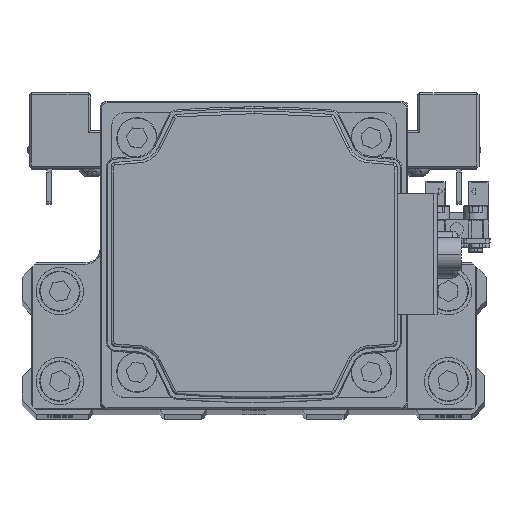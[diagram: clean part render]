
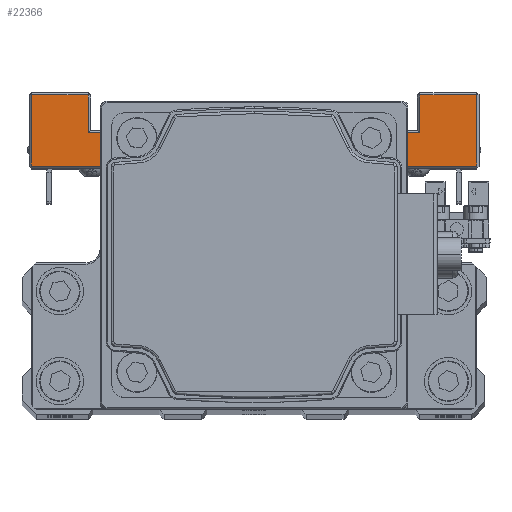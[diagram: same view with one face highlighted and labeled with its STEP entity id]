
A CAD part, top view. The second image highlights one B-rep face of the part: STEP entity #22366.
In plain terms, the highlighted planar face has unit normal (0, 0, 1) as drawn and (1, 0, 0) by its records, which use the part's own axes.
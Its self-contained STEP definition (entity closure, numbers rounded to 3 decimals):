
#849 = VERTEX_POINT ( 'NONE', #14409 ) ;
#1273 = EDGE_CURVE ( 'NONE', #39231, #20649, #33098, .T. ) ;
#2835 = DIRECTION ( 'NONE',  ( -1., 0., 0. ) ) ;
#3007 = DIRECTION ( 'NONE',  ( 0., -1., 0. ) ) ;
#3331 = CARTESIAN_POINT ( 'NONE',  ( 47., 7.5, 35. ) ) ;
#4385 = CARTESIAN_POINT ( 'NONE',  ( 47., 7.5, 20. ) ) ;
#4427 = VERTEX_POINT ( 'NONE', #18745 ) ;
#4443 = VECTOR ( 'NONE', #30879, 1000. ) ;
#4496 = LINE ( 'NONE', #17186, #24999 ) ;
#4572 = CARTESIAN_POINT ( 'NONE',  ( 47., 7.5, -35. ) ) ;
#4639 = LINE ( 'NONE', #17332, #11763 ) ;
#5476 = LINE ( 'NONE', #18178, #4443 ) ;
#5573 = LINE ( 'NONE', #18277, #33546 ) ;
#5973 = FACE_OUTER_BOUND ( 'NONE', #37573, .T. ) ;
#6413 = CARTESIAN_POINT ( 'NONE',  ( 47., -7.5, 20. ) ) ;
#6462 = CARTESIAN_POINT ( 'NONE',  ( 47., 15., -35. ) ) ;
#7456 = VECTOR ( 'NONE', #22152, 1000. ) ;
#8195 = ORIENTED_EDGE ( 'NONE', *, *, #19695, .F. ) ;
#8499 = LINE ( 'NONE', #21171, #36904 ) ;
#8721 = DIRECTION ( 'NONE',  ( 0., 1., 0. ) ) ;
#9049 = CARTESIAN_POINT ( 'NONE',  ( 47., 8., 20. ) ) ;
#9093 = VERTEX_POINT ( 'NONE', #22572 ) ;
#9165 = CARTESIAN_POINT ( 'NONE',  ( 47., 23., 47. ) ) ;
#9360 = VERTEX_POINT ( 'NONE', #15082 ) ;
#9466 = CARTESIAN_POINT ( 'NONE',  ( 47., 8., -47. ) ) ;
#10798 = VECTOR ( 'NONE', #3007, 1000. ) ;
#11482 = EDGE_CURVE ( 'NONE', #20649, #20090, #5476, .T. ) ;
#11763 = VECTOR ( 'NONE', #30009, 1000. ) ;
#13523 = EDGE_CURVE ( 'NONE', #849, #22419, #32901, .T. ) ;
#14069 = EDGE_CURVE ( 'NONE', #20090, #4427, #31850, .T. ) ;
#14178 = VERTEX_POINT ( 'NONE', #35263 ) ;
#14194 = ORIENTED_EDGE ( 'NONE', *, *, #13523, .T. ) ;
#14274 = VECTOR ( 'NONE', #17079, 1000. ) ;
#14409 = CARTESIAN_POINT ( 'NONE',  ( 47., 8., 20. ) ) ;
#14459 = ORIENTED_EDGE ( 'NONE', *, *, #14069, .T. ) ;
#15082 = CARTESIAN_POINT ( 'NONE',  ( 47., 23., -47. ) ) ;
#15547 = DIRECTION ( 'NONE',  ( 0., 0., 1. ) ) ;
#15815 = CARTESIAN_POINT ( 'NONE',  ( 47., 8., -47. ) ) ;
#16028 = DIRECTION ( 'NONE',  ( 0., 1., 0. ) ) ;
#17079 = DIRECTION ( 'NONE',  ( 0., -1., 0. ) ) ;
#17186 = CARTESIAN_POINT ( 'NONE',  ( 47., 23., -20. ) ) ;
#17266 = DIRECTION ( 'NONE',  ( 0., -1., 0. ) ) ;
#17332 = CARTESIAN_POINT ( 'NONE',  ( 47., 23., -20. ) ) ;
#18178 = CARTESIAN_POINT ( 'NONE',  ( 47., 15., -20. ) ) ;
#18277 = CARTESIAN_POINT ( 'NONE',  ( 47., 7.5, 47. ) ) ;
#18656 = PLANE ( 'NONE',  #27477 ) ;
#18745 = CARTESIAN_POINT ( 'NONE',  ( 47., 23., 35. ) ) ;
#18802 = LINE ( 'NONE', #31511, #10798 ) ;
#19602 = EDGE_CURVE ( 'NONE', #9093, #849, #37569, .T. ) ;
#19695 = EDGE_CURVE ( 'NONE', #29165, #14178, #18802, .T. ) ;
#20084 = ORIENTED_EDGE ( 'NONE', *, *, #11482, .T. ) ;
#20090 = VERTEX_POINT ( 'NONE', #27914 ) ;
#20649 = VERTEX_POINT ( 'NONE', #6462 ) ;
#21171 = CARTESIAN_POINT ( 'NONE',  ( 47., -7.5, -20. ) ) ;
#21736 = DIRECTION ( 'NONE',  ( 0., 0., -1. ) ) ;
#21879 = ORIENTED_EDGE ( 'NONE', *, *, #26440, .T. ) ;
#22152 = DIRECTION ( 'NONE',  ( 0., 0., -1. ) ) ;
#22366 = ADVANCED_FACE ( 'NONE', ( #5973 ), #18656, .F. ) ;
#22419 = VERTEX_POINT ( 'NONE', #6413 ) ;
#22572 = CARTESIAN_POINT ( 'NONE',  ( 47., 8., 47. ) ) ;
#23344 = CARTESIAN_POINT ( 'NONE',  ( 47., 23., -35. ) ) ;
#23556 = EDGE_CURVE ( 'NONE', #22419, #14178, #8499, .T. ) ;
#23679 = ORIENTED_EDGE ( 'NONE', *, *, #1273, .T. ) ;
#24435 = VECTOR ( 'NONE', #16028, 1000. ) ;
#24517 = LINE ( 'NONE', #37244, #29619 ) ;
#24999 = VECTOR ( 'NONE', #29864, 1000. ) ;
#25202 = ORIENTED_EDGE ( 'NONE', *, *, #23556, .T. ) ;
#26440 = EDGE_CURVE ( 'NONE', #29165, #38189, #37996, .T. ) ;
#27388 = VECTOR ( 'NONE', #21736, 1000. ) ;
#27477 = AXIS2_PLACEMENT_3D ( 'NONE', #31357, #2835, #15547 ) ;
#27680 = ORIENTED_EDGE ( 'NONE', *, *, #34160, .T. ) ;
#27914 = CARTESIAN_POINT ( 'NONE',  ( 47., 15., 35. ) ) ;
#28063 = ORIENTED_EDGE ( 'NONE', *, *, #38741, .T. ) ;
#29165 = VERTEX_POINT ( 'NONE', #37635 ) ;
#29619 = VECTOR ( 'NONE', #8721, 1000. ) ;
#29629 = VECTOR ( 'NONE', #17266, 1000. ) ;
#29864 = DIRECTION ( 'NONE',  ( 0., 0., 1. ) ) ;
#30009 = DIRECTION ( 'NONE',  ( 0., 0., 1. ) ) ;
#30101 = VERTEX_POINT ( 'NONE', #9165 ) ;
#30879 = DIRECTION ( 'NONE',  ( 0., 0., 1. ) ) ;
#30975 = DIRECTION ( 'NONE',  ( 0., -1., 0. ) ) ;
#31357 = CARTESIAN_POINT ( 'NONE',  ( 47., 7.5, -20. ) ) ;
#31511 = CARTESIAN_POINT ( 'NONE',  ( 47., 7.5, -20. ) ) ;
#31850 = LINE ( 'NONE', #3331, #24435 ) ;
#32562 = ORIENTED_EDGE ( 'NONE', *, *, #38056, .T. ) ;
#32901 = LINE ( 'NONE', #4385, #14274 ) ;
#33098 = LINE ( 'NONE', #4572, #29629 ) ;
#33546 = VECTOR ( 'NONE', #30975, 1000. ) ;
#33880 = DIRECTION ( 'NONE',  ( 0., 0., -1. ) ) ;
#34160 = EDGE_CURVE ( 'NONE', #30101, #9093, #5573, .T. ) ;
#35263 = CARTESIAN_POINT ( 'NONE',  ( 47., -7.5, -20. ) ) ;
#36904 = VECTOR ( 'NONE', #33880, 1000. ) ;
#37244 = CARTESIAN_POINT ( 'NONE',  ( 47., 7.5, -47. ) ) ;
#37569 = LINE ( 'NONE', #9049, #27388 ) ;
#37573 = EDGE_LOOP ( 'NONE', ( #8195, #21879, #32562, #40928, #23679, #20084, #14459, #28063, #27680, #37949, #14194, #25202 ) ) ;
#37635 = CARTESIAN_POINT ( 'NONE',  ( 47., 8., -20. ) ) ;
#37949 = ORIENTED_EDGE ( 'NONE', *, *, #19602, .T. ) ;
#37996 = LINE ( 'NONE', #9466, #7456 ) ;
#38056 = EDGE_CURVE ( 'NONE', #38189, #9360, #24517, .T. ) ;
#38189 = VERTEX_POINT ( 'NONE', #15815 ) ;
#38741 = EDGE_CURVE ( 'NONE', #4427, #30101, #4496, .T. ) ;
#39231 = VERTEX_POINT ( 'NONE', #23344 ) ;
#39259 = EDGE_CURVE ( 'NONE', #9360, #39231, #4639, .T. ) ;
#40928 = ORIENTED_EDGE ( 'NONE', *, *, #39259, .T. ) ;
